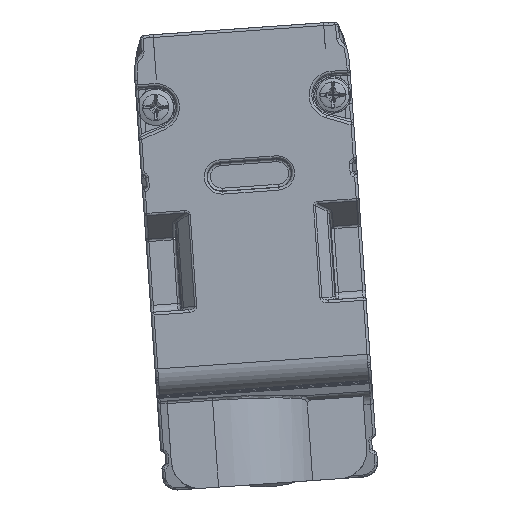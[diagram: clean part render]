
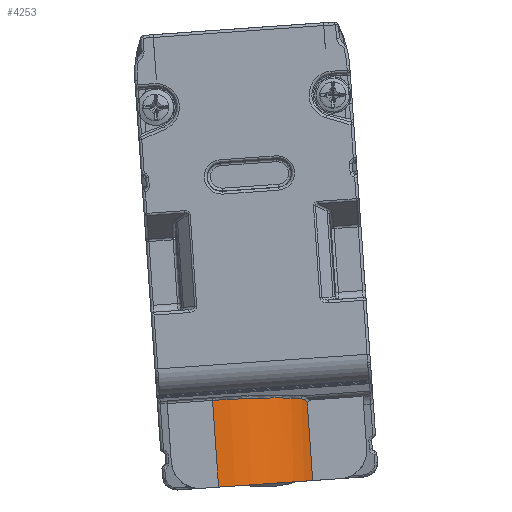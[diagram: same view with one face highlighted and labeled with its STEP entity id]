
A CAD part, front view. The second image highlights one B-rep face of the part: STEP entity #4253.
In plain terms, the highlighted cylindrical face has radius 7.5 mm (diameter 15 mm), a partial arc.
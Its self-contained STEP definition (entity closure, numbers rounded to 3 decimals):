
#329=ELLIPSE('',#24168,7.53,7.5);
#761=B_SPLINE_CURVE_WITH_KNOTS('',3,(#44053,#44054,#44055,#44056,#44057,
#44058,#44059),.UNSPECIFIED.,.F.,.F.,(4,3,4),(0.,0.485,1.),.UNSPECIFIED.);
#1630=CYLINDRICAL_SURFACE('',#24170,7.5);
#3072=CIRCLE('',#24169,7.5);
#4253=ADVANCED_FACE('',(#5603),#1630,.T.);
#5603=FACE_OUTER_BOUND('',#6716,.T.);
#6716=EDGE_LOOP('',(#11873,#11874,#11875,#11876,#11877));
#11873=ORIENTED_EDGE('',*,*,#18111,.T.);
#11874=ORIENTED_EDGE('',*,*,#18112,.T.);
#11875=ORIENTED_EDGE('',*,*,#18113,.T.);
#11876=ORIENTED_EDGE('',*,*,#18114,.T.);
#11877=ORIENTED_EDGE('',*,*,#18115,.F.);
#14659=VERTEX_POINT('',#44051);
#14660=VERTEX_POINT('',#44052);
#14661=VERTEX_POINT('',#44060);
#14662=VERTEX_POINT('',#44062);
#14663=VERTEX_POINT('',#44064);
#18111=EDGE_CURVE('',#14659,#14660,#20019,.T.);
#18112=EDGE_CURVE('',#14660,#14661,#761,.T.);
#18113=EDGE_CURVE('',#14661,#14662,#329,.T.);
#18114=EDGE_CURVE('',#14662,#14663,#20020,.T.);
#18115=EDGE_CURVE('',#14659,#14663,#3072,.T.);
#20019=LINE('',#44050,#21650);
#20020=LINE('',#44063,#21651);
#21650=VECTOR('',#30203,1.);
#21651=VECTOR('',#30206,1.);
#24168=AXIS2_PLACEMENT_3D('',#44061,#30204,#30205);
#24169=AXIS2_PLACEMENT_3D('',#44065,#30207,#30208);
#24170=AXIS2_PLACEMENT_3D('',#44066,#30209,#30210);
#30203=DIRECTION('',(-0.07,0.,0.998));
#30204=DIRECTION('',(0.069,-0.089,-0.994));
#30205=DIRECTION('',(0.006,0.996,-0.089));
#30206=DIRECTION('',(0.07,0.,-0.998));
#30207=DIRECTION('',(0.07,0.,-0.998));
#30208=DIRECTION('',(0.998,0.,0.07));
#30209=DIRECTION('',(0.07,0.,-0.998));
#30210=DIRECTION('',(0.,-1.,0.));
#44050=CARTESIAN_POINT('',(-40.701,-590.597,14.888));
#44051=CARTESIAN_POINT('',(-40.701,-590.597,14.888));
#44052=CARTESIAN_POINT('',(-41.088,-590.597,20.435));
#44053=CARTESIAN_POINT('',(-41.088,-590.597,20.435));
#44054=CARTESIAN_POINT('',(-41.139,-590.686,20.528));
#44055=CARTESIAN_POINT('',(-41.198,-590.793,20.603));
#44056=CARTESIAN_POINT('',(-41.263,-590.905,20.654));
#44057=CARTESIAN_POINT('',(-41.332,-591.024,20.708));
#44058=CARTESIAN_POINT('',(-41.408,-591.152,20.738));
#44059=CARTESIAN_POINT('',(-41.487,-591.278,20.743));
#44060=CARTESIAN_POINT('',(-41.487,-591.278,20.743));
#44061=CARTESIAN_POINT('',(-47.816,-587.318,19.944));
#44062=CARTESIAN_POINT('',(-47.863,-594.818,20.616));
#44063=CARTESIAN_POINT('',(-47.667,-594.818,17.815));
#44064=CARTESIAN_POINT('',(-47.43,-594.818,14.418));
#44065=CARTESIAN_POINT('',(-47.43,-587.318,14.418));
#44066=CARTESIAN_POINT('',(-52.434,-587.318,85.982));
